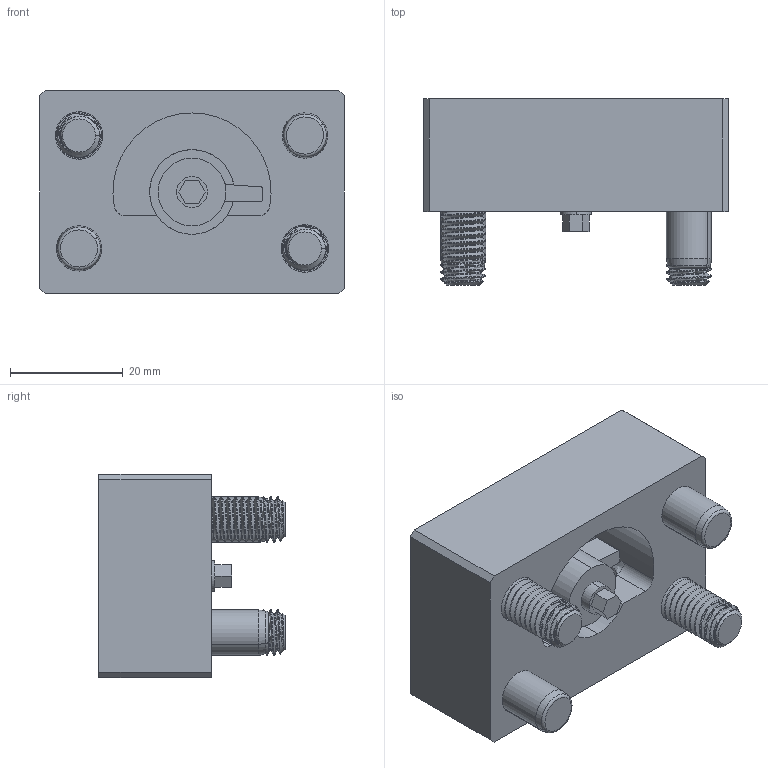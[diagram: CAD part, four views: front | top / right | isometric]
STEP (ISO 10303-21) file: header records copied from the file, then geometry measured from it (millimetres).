
FILE_DESCRIPTION (( 'STEP AP214' ), '1' );
FILE_NAME ('8800699_p.STEP', '2019-09-30T15:27:04', ( '' ), ( '' ), 'SwSTEP 2.0', 'SolidWorks 2018', '' );
FILE_SCHEMA (( 'AUTOMOTIVE_DESIGN' ));
Length unit declared in the file: millimetre
Products named in the file (1): 8800699_p
Bounding box: 54 x 33 x 36 mm (x, y, z)
Surface area: 14820.2 mm2 (no closed solid volume)
Topology: 0 solids, 9 shells, 315 faces, 937 edges, 629 vertices
Faces by surface type: cylinder 198, plane 65, cone 32, bspline 16, torus 4
Entity records: 19037 total; most frequent: CARTESIAN_POINT 8196, ORIENTED_EDGE 1724, DIRECTION 1287, EDGE_CURVE 937, VERTEX_POINT 629, AXIS2_PLACEMENT_3D 442, LINE 403, VECTOR 403
